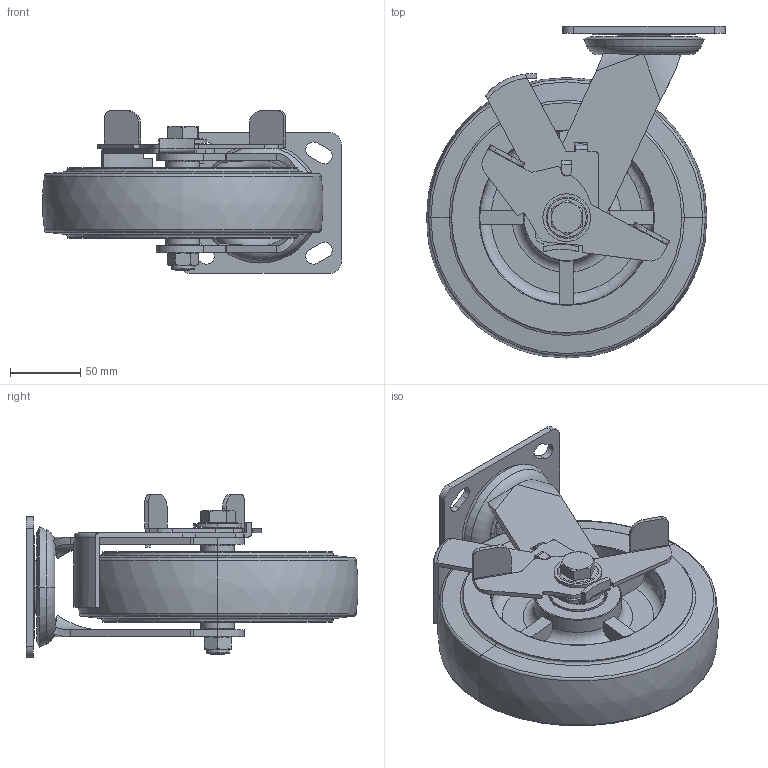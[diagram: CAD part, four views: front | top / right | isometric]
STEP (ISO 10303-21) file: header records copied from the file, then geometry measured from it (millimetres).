
FILE_DESCRIPTION((''),'2;1');
FILE_NAME('S75728C_ASM','2026-08-01T',('Lenovo'),(''),'PRO/ENGINEER BY PARAMETRIC TECHNOLOGY CORPORATION, 2010280','PRO/ENGINEER BY PARAMETRIC TECHNOLOGY CORPORATION, 2010280','');
FILE_SCHEMA(('CONFIG_CONTROL_DESIGN'));
Length unit declared in the file: millimetre
Products named in the file (14): S7508-353; S7570-201; S7500-211; 738-986; 6203; 700-67; 700-54; 738-86_ASM; 7310-020C; 700-34; S7578-503; C7416-502; S7570-047; S75728C_ASM
Assembly tree (15 placements, depth 3):
  S75728C_ASM
    S7508-353
    S7570-201
    S7500-211
    738-86_ASM
      738-986
      6203  x2
      700-67  x2
      700-54
    7310-020C
    700-34
    S7578-503
    C7416-502
    S7570-047
Bounding box: 212.84 x 236.34 x 115.71 mm (x, y, z)
Volume: 1363437.8 mm3; surface area: 247480.4 mm2
Topology: 41 solids, 41 shells, 675 faces, 1678 edges, 1018 vertices
Faces by surface type: plane 312, cylinder 161, torus 90, cone 54, sphere 48, bspline 10
Entity records: 18879 total; most frequent: CARTESIAN_POINT 4034, DIRECTION 3140, ORIENTED_EDGE 2948, EDGE_CURVE 1474, AXIS2_PLACEMENT_3D 1142, VERTEX_POINT 944, VECTOR 856, LINE 856
